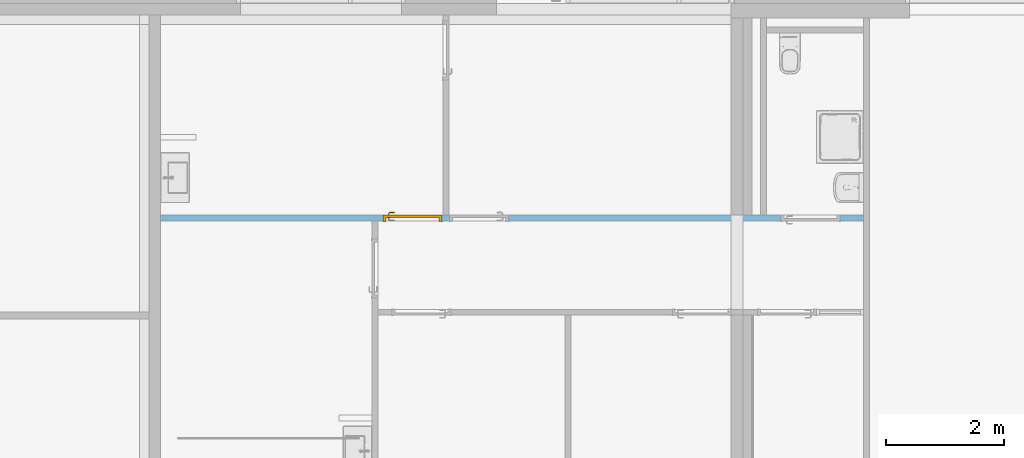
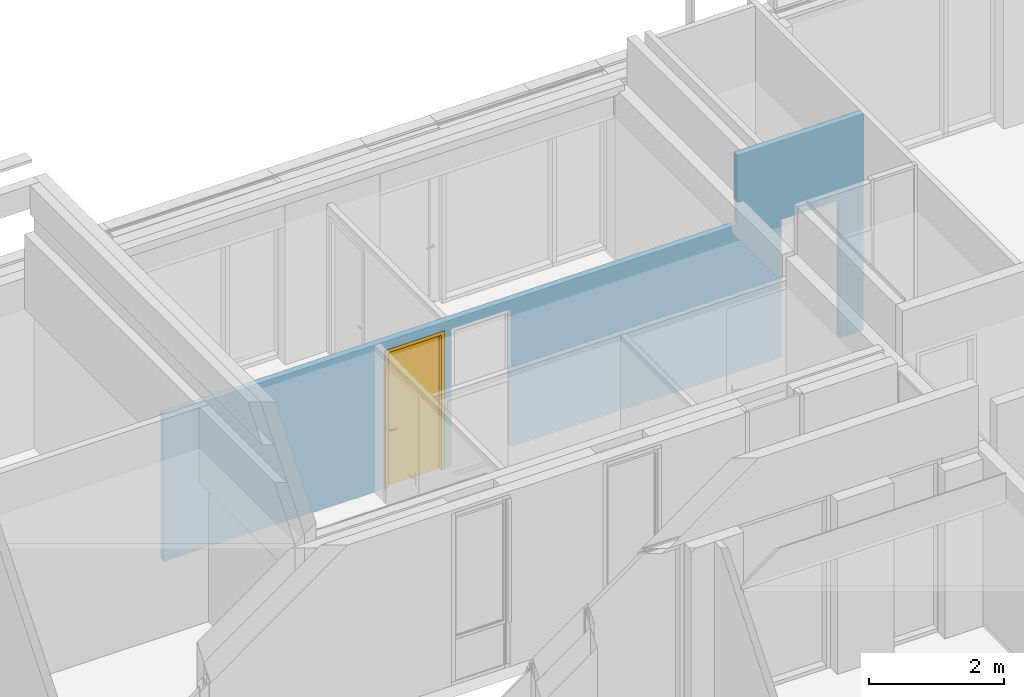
# One storey, part 133 of 240: 1 door, 4 openings, plus 1 element that does not belong to this part.
"""IFC2X3 building model written with IfcOpenShell, lengths in centimetres."""

from ifc_helpers import new_model, entity, si_unit, converted_unit, derived_unit, direction, frame, frame_2d, origin, place, context, subcontext, project, spatial, polyline, rectangle, extrude, clip, bounded_halfspace, faceted_brep, source, transform, mapped, material, material_list, layer, layer_set, layer_usage, type_object, type_shapes, element, fill, save


model = new_model("IFC2X3")

# Units and contexts
model_context = context("Model", 3, precision=0.001, world=origin(), true_north=direction((6.12303176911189e-17, 1.0)))
body_context = subcontext(model_context, "Body", "Model", "MODEL_VIEW")
ifc_project = project(units=[si_unit("LENGTHUNIT", "METRE", prefix="CENTI"), si_unit("AREAUNIT", "SQUARE_METRE"), si_unit("VOLUMEUNIT", "CUBIC_METRE"), converted_unit("PLANEANGLEUNIT", "DEGREE", entity("IfcRatioMeasure", 0.0174532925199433), si_unit("PLANEANGLEUNIT", "RADIAN"), dimensions=[0, 0, 0, 0, 0, 0, 0]), si_unit("MASSUNIT", "GRAM", prefix="KILO"), derived_unit("MASSDENSITYUNIT", [(si_unit("MASSUNIT", "GRAM", prefix="KILO"), 1), (si_unit("LENGTHUNIT", "METRE"), -3)]), si_unit("TIMEUNIT", "SECOND"), si_unit("FREQUENCYUNIT", "HERTZ"), si_unit("THERMODYNAMICTEMPERATUREUNIT", "DEGREE_CELSIUS"), derived_unit("THERMALTRANSMITTANCEUNIT", [(si_unit("MASSUNIT", "GRAM", prefix="KILO"), 1), (si_unit("THERMODYNAMICTEMPERATUREUNIT", "KELVIN"), -1), (si_unit("TIMEUNIT", "SECOND"), -3)]), derived_unit("VOLUMETRICFLOWRATEUNIT", [(si_unit("LENGTHUNIT", "METRE"), 3), (si_unit("TIMEUNIT", "SECOND"), -1)]), si_unit("ELECTRICCURRENTUNIT", "AMPERE"), si_unit("ELECTRICVOLTAGEUNIT", "VOLT"), si_unit("POWERUNIT", "WATT"), si_unit("FORCEUNIT", "NEWTON", prefix="KILO"), si_unit("ILLUMINANCEUNIT", "LUX"), si_unit("LUMINOUSFLUXUNIT", "LUMEN"), si_unit("LUMINOUSINTENSITYUNIT", "CANDELA"), derived_unit("USERDEFINED", [(si_unit("MASSUNIT", "GRAM", prefix="KILO"), -1), (si_unit("LENGTHUNIT", "METRE"), -2), (si_unit("TIMEUNIT", "SECOND"), 3), (si_unit("LUMINOUSFLUXUNIT", "LUMEN"), 1)]), derived_unit("LINEARVELOCITYUNIT", [(si_unit("LENGTHUNIT", "METRE"), 1), (si_unit("TIMEUNIT", "SECOND"), -1)]), si_unit("PRESSUREUNIT", "PASCAL"), derived_unit("USERDEFINED", [(si_unit("LENGTHUNIT", "METRE"), -2), (si_unit("MASSUNIT", "GRAM", prefix="KILO"), 1), (si_unit("TIMEUNIT", "SECOND"), -2)])], contexts=[model_context])

# Site, building, storey
site_placement = place(None, frame((-2781.94577612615, 7442.24238424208, 0.0)))
site = spatial("IfcSite", under=ifc_project, at=site_placement, Name="Default", CompositionType="ELEMENT")
building_placement = place(site_placement, origin())
building = spatial("IfcBuilding", under=site, at=building_placement, CompositionType="ELEMENT")
storey_placement = place(building_placement, origin())
storey = spatial("IfcBuildingStorey", under=building, at=storey_placement, Name="N00 - COO", CompositionType="ELEMENT", Elevation=0.0)

# Wall, openings, door
ifc_material_1 = material(Name="01 - Enduit/Plâtre")
ifc_layer_1 = layer(ifc_material_1, 1.3)
ifc_material_2 = material(Name="00 - Isolant")
ifc_layer_2 = layer(ifc_material_2, 7.4)
ifc_layer_3 = layer(ifc_material_1, 1.3)
ifc_layer_set = layer_set([ifc_layer_1, ifc_layer_2, ifc_layer_3], Name="Mur de base:06 - cloisons - Ba13 10cm")
ifc_layer_usage = layer_usage(ifc_layer_set, "AXIS2", "NEGATIVE", 5.0)
wall_type = type_object("IfcWallType", Name="Mur de base:06 - cloisons - Ba13 10cm", PredefinedType="STANDARD", material=ifc_layer_set)
wall_placement = place(building_placement, frame((-9399.49987766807, -355.0, 0.0)))
wall = element("IfcWallStandardCase", 1, at=wall_placement, inside=storey, type_object=wall_type, material=ifc_layer_usage, Name="Mur de base:06 - cloisons - Ba13 10cm", ObjectType="Mur de base:06 - cloisons - Ba13 10cm", context=body_context, shape_type="Clipping", body=[
    clip(extrude(rectangle(XDim=1195.00000006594, YDim=10.0, at=frame_2d((597.500000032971, -1.11022302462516e-14), x_axis=(-1.0, 0.0))), origin(), (0.0, 0.0, 1.0), 391.0), bounded_halfspace(frame((1195.0, -5.0, 391.0), z_axis=(0.0, 0.0, -1.0), x_axis=(0.0, 1.0, 0.0)), True, frame((1195.0, -5.0, 391.0)), polyline([(0.0, 0.0), (0.0, 10.0), (-165.0, 10.0), (-175.0, 10.0), (-205.0, 10.0), (-205.0, 0.0), (0.0, 0.0)]))),
])
opening_1_placement = place(wall_placement, origin())
element("IfcOpeningElement", 2, at=opening_1_placement, cuts=wall, Name="Mur de base:06 - cloisons - Ba13 10cm:4571", ObjectType="Opening", context=body_context, shape_type="SweptSolid", body=[
    extrude(rectangle(XDim=125.499999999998, YDim=979.999999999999, at=frame_2d((0.0, 7.60280727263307e-13), x_axis=(0.0, 1.0))), frame((490.0, 5.0, 328.25), z_axis=(0.0, -1.0, 0.0), x_axis=(-1.0, 0.0, 0.0)), (0.0, 0.0, 1.0), 10.0),
])
opening_2_placement = place(wall_placement, frame((378.500000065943, -5.0, 0.0)))
opening_2 = element("IfcOpeningElement", 3, at=opening_2_placement, cuts=wall, Name="Int. Simple:PP simple (0.93m x 2.50m):1", ObjectType="Opening", context=body_context, shape_type="SweptSolid", body=[
    extrude(rectangle(XDim=248.500000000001, YDim=99.9999999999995, at=frame_2d((124.250000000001, 49.9999999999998), x_axis=(1.0, 0.0))), frame((0.0, 0.0, 0.0), z_axis=(0.0, 1.0, 0.0), x_axis=(0.0, 0.0, 1.0)), (0.0, 0.0, 1.0), 10.0),
])
opening_3_placement = place(wall_placement, frame((491.500000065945, -5.0, 0.0)))
element("IfcOpeningElement", 4, at=opening_3_placement, cuts=wall, Name="Int. Simple:PP simple (0.93m x 2.50m):1", ObjectType="Opening", context=body_context, shape_type="SweptSolid", body=[
    extrude(rectangle(XDim=248.500000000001, YDim=99.9999999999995, at=frame_2d((124.250000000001, 50.0), x_axis=(1.0, 0.0))), frame((0.0, 0.0, 0.0), z_axis=(0.0, 1.0, 0.0), x_axis=(0.0, 0.0, 1.0)), (0.0, 0.0, 1.0), 10.0),
])
opening_4_placement = place(wall_placement, frame((1155.0, 5.0, 0.0)))
element("IfcOpeningElement", 5, at=opening_4_placement, cuts=wall, Name="Int. Simple:PP simple (0.93m x 2.50m):1", ObjectType="Opening", context=body_context, shape_type="SweptSolid", body=[
    extrude(rectangle(XDim=248.500000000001, YDim=99.9999999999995, at=frame_2d((124.250000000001, 50.0), x_axis=(1.0, 0.0))), frame((0.0, 0.0, 0.0), z_axis=(0.0, -1.0, 0.0), x_axis=(0.0, 0.0, 1.0)), (0.0, 0.0, 1.0), 10.0),
])
ifc_material_3 = material(Name="Finition Peinture - Blanc satiné")
ifc_material_4 = material(Name="Bois - Panneau de porte")
ifc_material_5 = material(Name="Bois - Cadre de porte")
ifc_material_list_1 = material_list([ifc_material_3, ifc_material_4, ifc_material_5])
ifc_material_list_2 = material_list([ifc_material_3, ifc_material_4, ifc_material_5])
door_style = type_object("IfcDoorStyle", Name="PP simple (0.93m x 2.50m)", ConstructionType="NOTDEFINED", OperationType="SINGLE_SWING_RIGHT", ParameterTakesPrecedence=False, Sizeable=False, material=ifc_material_list_2)
shared_shape = source(origin(), body_context, "Body", "Brep", [
    faceted_brep([(99.5000000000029, -0.500000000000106, 87.0), (99.5000000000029, -0.500000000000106, 108.0), (98.535276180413, -0.500000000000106, 108.399601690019), (97.5000000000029, -0.500000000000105, 108.535898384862), (96.4647238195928, -0.500000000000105, 108.399601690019), (95.500000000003, -0.500000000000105, 108.0), (95.5000000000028, -0.500000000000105, 87.0), (96.4647238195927, -0.500000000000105, 86.6003983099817), (97.5000000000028, -0.500000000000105, 86.464101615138), (98.5352761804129, -0.500000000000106, 86.6003983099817), (99.5000000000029, 0.0, 108.0), (99.5000000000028, 0.0, 87.0), (98.5352761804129, 0.0, 86.6003983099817), (97.5000000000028, 0.0, 86.464101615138), (96.4647238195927, 0.0, 86.6003983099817), (95.5000000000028, 0.0, 87.0), (95.5000000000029, 0.0, 108.0), (96.4647238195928, 0.0, 108.399601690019), (97.5000000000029, 0.0, 108.535898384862), (98.535276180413, 0.0, 108.399601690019)], [[[0, 1, 2, 3, 4, 5, 6, 7, 8, 9]], [[10, 11, 12, 13, 14, 15, 16, 17, 18, 19]], [[9, 12, 11, 0]], [[8, 13, 12, 9]], [[7, 14, 13, 8]], [[7, 6, 15, 14]], [[15, 6, 5, 16]], [[4, 17, 16, 5]], [[3, 18, 17, 4]], [[2, 19, 18, 3]], [[2, 1, 10, 19]], [[11, 10, 1, 0]]]),
    faceted_brep([(99.5000000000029, 4.0, 87.0), (99.5000000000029, 4.0, 108.0), (98.535276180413, 4.0, 108.399601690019), (97.5000000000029, 4.0, 108.535898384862), (96.4647238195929, 4.0, 108.399601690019), (95.500000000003, 4.0, 108.0), (95.5000000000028, 4.0, 87.0), (96.4647238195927, 4.0, 86.6003983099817), (97.5000000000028, 4.0, 86.464101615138), (98.5352761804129, 4.0, 86.6003983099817), (97.5000000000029, 4.49999999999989, 108.535898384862), (98.535276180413, 4.49999999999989, 108.399601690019), (99.5000000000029, 4.49999999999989, 108.0), (99.5000000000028, 4.49999999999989, 87.0), (98.5352761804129, 4.49999999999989, 86.6003983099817), (97.5000000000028, 4.49999999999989, 86.464101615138), (96.4647238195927, 4.49999999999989, 86.6003983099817), (95.5000000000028, 4.49999999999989, 87.0), (95.500000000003, 4.49999999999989, 108.0), (96.4647238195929, 4.49999999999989, 108.399601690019)], [[[0, 1, 2, 3, 4, 5, 6, 7, 8, 9]], [[10, 11, 12, 13, 14, 15, 16, 17, 18, 19]], [[4, 19, 18, 5]], [[3, 10, 19, 4]], [[2, 11, 10, 3]], [[2, 1, 12, 11]], [[13, 12, 1, 0]], [[9, 14, 13, 0]], [[8, 15, 14, 9]], [[7, 16, 15, 8]], [[7, 6, 17, 16]], [[17, 6, 5, 18]]]),
    faceted_brep([(97.2974701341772, -0.50000000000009, 100.778044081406), (97.7025298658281, -0.500000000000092, 100.778044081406), (98.1000000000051, -0.500000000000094, 100.699999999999), (98.100000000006, -0.500000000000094, 99.2999999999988), (97.7025298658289, -0.500000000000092, 99.221955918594), (97.297470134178, -0.50000000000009, 99.2219559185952), (96.9000000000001, -0.500000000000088, 99.3000000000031), (96.9000000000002, -0.500000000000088, 100.7), (97.7025298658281, -3.10045754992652, 100.778044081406), (98.1000000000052, -3.26509507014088, 100.7), (97.2974701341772, -2.93267631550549, 100.778044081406), (95.9298602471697, -4.30028620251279, 100.778044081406), (96.0976414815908, -4.70534593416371, 100.778044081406), (96.9000000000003, -2.76803879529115, 100.7), (96.9000000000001, -2.76803879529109, 99.3000000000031), (97.297470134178, -2.93267631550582, 99.2219559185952), (97.7025298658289, -3.10045754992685, 99.221955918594), (96.0976414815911, -4.70534593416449, 99.221955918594), (95.9298602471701, -4.30028620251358, 99.2219559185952), (98.100000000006, -3.26509507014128, 99.2999999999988), (96.2622790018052, -5.10281606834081, 100.7), (95.7652227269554, -3.90281606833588, 100.7), (95.7652227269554, -3.90281606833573, 99.3000000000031), (96.2622790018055, -5.10281606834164, 99.2999999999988), (87.4981359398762, -5.10281606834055, 100.7), (87.4981359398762, -4.70534593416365, 100.778044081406), (87.4981359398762, -4.30028620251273, 100.778044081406), (87.4981359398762, -3.90281606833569, 100.699999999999), (87.4981359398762, -3.90281606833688, 99.3000000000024), (87.4981359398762, -4.30028620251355, 99.2219559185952), (87.4981359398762, -4.70534593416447, 99.221955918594), (87.4981359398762, -5.10281606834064, 99.2999999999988), (91.7139980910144, -4.5028160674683, 100.78786867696), (92.2692302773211, -5.1028160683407, 100.7), (91.6316793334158, -3.9028160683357, 100.7), (91.631679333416, -3.9028160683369, 99.3000000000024), (91.7139981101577, -4.50281607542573, 99.2121313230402), (92.2692310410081, -5.10281606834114, 99.2999999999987)], [[[0, 1, 2, 3, 4, 5, 6, 7]], [[2, 1, 8, 9]], [[1, 0, 10, 11, 12, 8]], [[0, 7, 13, 10]], [[14, 13, 7, 6]], [[5, 15, 14, 6]], [[5, 4, 16, 17, 18, 15]], [[3, 19, 16, 4]], [[9, 19, 3, 2]], [[9, 8, 12, 20]], [[10, 13, 21, 11]], [[22, 21, 13, 14]], [[14, 15, 18, 22]], [[16, 19, 23, 17]], [[20, 23, 19, 9]], [[24, 25, 26, 27, 28, 29, 30, 31]], [[32, 25, 33]], [[33, 25, 24]], [[33, 20, 12]], [[11, 34, 32]], [[34, 11, 21]], [[27, 26, 34]], [[32, 26, 25]], [[32, 34, 26]], [[32, 33, 12]], [[11, 32, 12]], [[21, 22, 35, 28, 27, 34]], [[36, 29, 35]], [[30, 36, 37]], [[18, 35, 22]], [[29, 28, 35]], [[30, 37, 31]], [[37, 17, 23]], [[36, 17, 37]], [[36, 18, 17]], [[36, 35, 18]], [[29, 36, 30]], [[23, 20, 33, 24, 31, 37]]]),
    faceted_brep([(97.2974701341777, 4.49999999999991, 99.2219559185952), (97.7025298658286, 4.49999999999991, 99.221955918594), (98.1000000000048, 4.4999999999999, 99.2999999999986), (98.1000000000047, 4.4999999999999, 100.7), (97.7025298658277, 4.49999999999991, 100.778044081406), (97.2974701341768, 4.49999999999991, 100.778044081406), (96.8999999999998, 4.49999999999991, 100.7), (96.900000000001, 4.49999999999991, 99.3000000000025), (96.8999999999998, 6.7485204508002, 100.7), (96.8999999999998, 6.74852045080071, 99.3000000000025), (97.2974701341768, 6.91315797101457, 100.778044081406), (97.7025298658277, 7.0809392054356, 100.778044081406), (96.0838906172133, 8.69957845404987, 100.778044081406), (95.9161093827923, 8.29451872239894, 100.778044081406), (98.1000000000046, 7.24557672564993, 100.7), (98.1000000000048, 7.24557672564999, 99.2999999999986), (97.7025298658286, 7.08093920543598, 99.221955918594), (97.2974701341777, 6.91315797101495, 99.2219559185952), (95.9161093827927, 8.29451872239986, 99.2219559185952), (96.0838906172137, 8.69957845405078, 99.221955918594), (95.751471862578, 7.89704858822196, 100.7), (95.7514718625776, 7.89704858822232, 99.3000000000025), (96.2485281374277, 9.09704858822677, 100.7), (96.2485281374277, 9.09704858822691, 99.2999999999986), (87.4954216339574, 8.29451872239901, 100.778044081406), (87.4954216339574, 8.69957845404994, 100.778044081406), (87.4954216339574, 9.09704858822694, 100.7), (87.4954216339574, 9.09704858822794, 99.2999999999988), (87.4954216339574, 8.6995784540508, 99.221955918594), (87.4954216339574, 8.29451872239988, 99.2219559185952), (87.4954216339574, 7.89704858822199, 99.3000000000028), (87.4954216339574, 7.89704858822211, 100.7), (91.6234467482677, 7.89704858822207, 100.7), (91.6234479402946, 7.89704858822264, 99.3000000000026), (91.7057655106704, 8.49704858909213, 100.78786867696), (92.255479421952, 9.09704858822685, 100.7), (92.2554795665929, 9.09704858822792, 99.2999999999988), (91.7057654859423, 8.49704858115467, 99.2121313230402)], [[[0, 1, 2, 3, 4, 5, 6, 7]], [[8, 9, 7, 6]], [[5, 10, 8, 6]], [[5, 4, 11, 12, 13, 10]], [[3, 14, 11, 4]], [[14, 3, 2, 15]], [[2, 1, 16, 15]], [[1, 0, 17, 18, 19, 16]], [[0, 7, 9, 17]], [[20, 21, 9, 8]], [[8, 10, 13, 20]], [[14, 22, 12, 11]], [[23, 22, 14, 15]], [[15, 16, 19, 23]], [[17, 9, 21, 18]], [[24, 25, 26, 27, 28, 29, 30, 31]], [[21, 20, 32, 31, 30, 33]], [[34, 24, 32]], [[25, 34, 35]], [[13, 32, 20]], [[24, 31, 32]], [[25, 35, 26]], [[35, 12, 22]], [[34, 12, 35]], [[34, 13, 12]], [[34, 32, 13]], [[24, 34, 25]], [[22, 23, 36, 27, 26, 35]], [[37, 28, 36]], [[36, 28, 27]], [[36, 23, 19]], [[18, 33, 37]], [[33, 18, 21]], [[30, 29, 33]], [[37, 29, 28]], [[37, 33, 29]], [[37, 36, 19]], [[18, 37, 19]]]),
    faceted_brep([(103.500000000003, 4.0, 245.0), (103.500000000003, 4.0, 0.0), (10.5000000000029, 4.0, 0.0), (10.5000000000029, 4.0, 245.0), (103.500000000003, 0.0, 245.0), (10.5000000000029, 0.0, 245.0), (10.5000000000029, 0.0, 0.0), (103.500000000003, 0.0, 0.0)], [[[0, 1, 2, 3]], [[4, 5, 6, 7]], [[3, 5, 4, 0]], [[2, 6, 5, 3]], [[1, 7, 6, 2]], [[0, 4, 7, 1]]]),
    faceted_brep([(107.0, 10.0, 0.0), (107.0, 0.0, 0.0), (108.500000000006, 0.0, 0.0), (108.500000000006, -0.500000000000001, 0.0), (103.500000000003, -0.500000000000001, 0.0), (103.500000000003, 4.0, 0.0), (102.0, 4.0, 0.0), (102.0, 10.5000000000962, 0.0), (108.500000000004, 10.5000000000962, 0.0), (108.500000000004, 10.0, 0.0), (107.0, 10.0, 248.500000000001), (107.0, 0.0, 248.500000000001), (108.500000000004, 10.0, 250.0), (5.50000000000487, 10.0, 250.0), (5.50000000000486, 10.0, 0.0), (7.0, 10.0, 0.0), (7.0, 10.0, 248.500000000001), (102.0, 4.0, 243.5), (102.0, 10.5000000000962, 243.5), (103.500000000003, 4.0, 245.0), (10.5000000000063, 4.0, 245.0), (10.5000000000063, 4.0, 0.0), (12.0, 4.0, 0.0), (12.0, 4.0, 243.5), (7.0, 0.0, 0.0), (7.0, 0.0, 248.500000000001), (5.50000000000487, 10.5000000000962, 0.0), (12.0, 10.5000000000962, 0.0), (10.5000000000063, -0.500000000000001, 0.0), (5.5000000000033, -0.500000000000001, 0.0), (5.5000000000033, 0.0, 0.0), (12.0, 10.5000000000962, 243.5), (103.500000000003, -0.500000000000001, 245.0), (108.500000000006, -0.500000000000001, 250.0), (5.5000000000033, -0.500000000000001, 250.0), (10.5000000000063, -0.500000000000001, 245.0), (108.500000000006, 0.0, 250.0), (5.50000000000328, 0.0, 250.0), (108.500000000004, 10.5000000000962, 250.0), (5.50000000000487, 10.5000000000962, 250.0)], [[[0, 1, 2, 3, 4, 5, 6, 7, 8, 9]], [[0, 10, 11, 1]], [[9, 12, 13, 14, 15, 16, 10, 0]], [[7, 6, 17, 18]], [[5, 19, 20, 21, 22, 23, 17, 6]], [[16, 15, 24, 25]], [[15, 14, 26, 27, 22, 21, 28, 29, 30, 24]], [[23, 22, 27, 31]], [[10, 16, 25, 11]], [[17, 23, 31, 18]], [[5, 4, 32, 19]], [[3, 33, 34, 29, 28, 35, 32, 4]], [[2, 36, 33, 3]], [[1, 11, 25, 24, 30, 37, 36, 2]], [[8, 38, 12, 9]], [[7, 18, 31, 27, 26, 39, 38, 8]], [[35, 28, 21, 20]], [[37, 30, 29, 34]], [[39, 26, 14, 13]], [[32, 35, 20, 19]], [[36, 37, 34, 33]], [[38, 39, 13, 12]]]),
])
type_shapes(door_style, [shared_shape])
door_placement = place(opening_2_placement, frame((107.0, 10.0, 0.0), z_axis=(0.0, 0.0, 1.0), x_axis=(-1.0, 0.0, 0.0)))
door = element("IfcDoor", 6, at=door_placement, inside=storey, type_object=door_style, material=ifc_material_list_1, Name="Int. Simple:PP simple (0.93m x 2.50m)", ObjectType="Int. Simple:PP simple (0.93m x 2.50m)", OverallHeight=248.500000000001, OverallWidth=99.9999999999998, context=body_context, shape_type="MappedRepresentation", body=[
    mapped(shared_shape, transform((0.0, 0.0, 0.0), scale=1.0)),
])
fill(opening_2, door)

save(model, "model.ifc")
